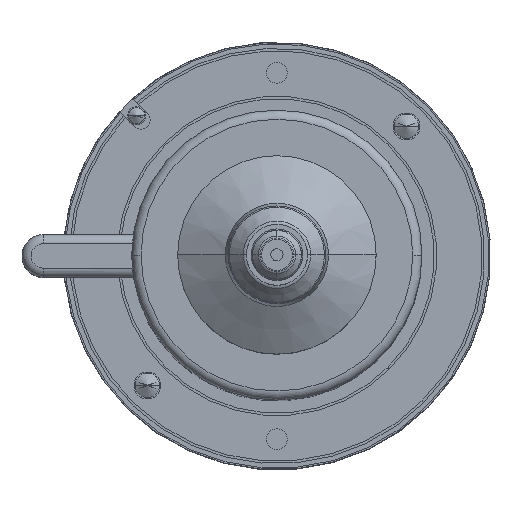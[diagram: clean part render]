
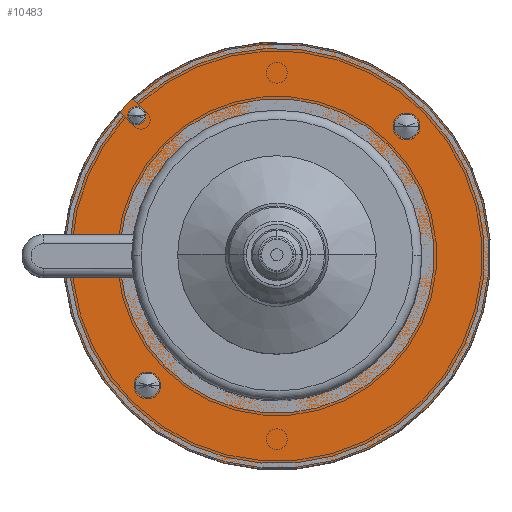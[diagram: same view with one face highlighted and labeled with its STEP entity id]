
A CAD part, top view. The second image highlights one B-rep face of the part: STEP entity #10483.
In plain terms, the highlighted planar face has unit normal (0, 0, 1).
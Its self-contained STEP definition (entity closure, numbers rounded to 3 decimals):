
#2480 = VERTEX_POINT ( 'NONE', #16774 ) ;
#2717 = VERTEX_POINT ( 'NONE', #17008 ) ;
#2743 = VERTEX_POINT ( 'NONE', #17212 ) ;
#3942 = CARTESIAN_POINT ( 'NONE',  ( -46.426, -42.426, 32. ) ) ;
#4138 = CARTESIAN_POINT ( 'NONE',  ( 46.426, 42.426, 32. ) ) ;
#6393 = FACE_OUTER_BOUND ( 'NONE', #13898, .T. ) ;
#6394 = FACE_BOUND ( 'NONE', #13660, .T. ) ;
#6396 = FACE_BOUND ( 'NONE', #16269, .T. ) ;
#6398 = FACE_BOUND ( 'NONE', #13784, .T. ) ;
#6981 = PLANE ( 'NONE',  #11930 ) ;
#6982 = CARTESIAN_POINT ( 'NONE',  ( 0., 32.5, 32. ) ) ;
#6983 = DIRECTION ( 'NONE',  ( 0., 0., -1. ) ) ;
#6984 = DIRECTION ( 'NONE',  ( -1., 0., 0. ) ) ;
#7381 = CARTESIAN_POINT ( 'NONE',  ( -45.962, 45.962, 32. ) ) ;
#7382 = DIRECTION ( 'NONE',  ( 0., 0., 1. ) ) ;
#7383 = DIRECTION ( 'NONE',  ( -1., 0., 0. ) ) ;
#7384 = CARTESIAN_POINT ( 'NONE',  ( -45.962, 45.962, 32. ) ) ;
#7385 = DIRECTION ( 'NONE',  ( 0., 0., 1. ) ) ;
#7386 = DIRECTION ( 'NONE',  ( -1., 0., 0. ) ) ;
#7427 = LINE ( 'NONE', #8851, #7428 ) ;
#7428 = VECTOR ( 'NONE', #8852, 1000. ) ;
#7432 = CIRCLE ( 'NONE', #12194, 70. ) ;
#7454 = CIRCLE ( 'NONE', #12212, 4. ) ;
#7461 = CIRCLE ( 'NONE', #12220, 47.5 ) ;
#7465 = CIRCLE ( 'NONE', #12228, 47.5 ) ;
#7542 = LINE ( 'NONE', #9061, #7544 ) ;
#7543 = CIRCLE ( 'NONE', #12266, 4. ) ;
#7544 = VECTOR ( 'NONE', #9062, 1000. ) ;
#7617 = CIRCLE ( 'NONE', #12332, 4. ) ;
#7633 = CIRCLE ( 'NONE', #12340, 4. ) ;
#8851 = CARTESIAN_POINT ( 'NONE',  ( 0., -7., 32. ) ) ;
#8852 = DIRECTION ( 'NONE',  ( -1., 0., 0. ) ) ;
#8858 = CARTESIAN_POINT ( 'NONE',  ( 0., 0., 32. ) ) ;
#8859 = DIRECTION ( 'NONE',  ( 0., 0., -1. ) ) ;
#8860 = DIRECTION ( 'NONE',  ( -1., 0., 0. ) ) ;
#8897 = CARTESIAN_POINT ( 'NONE',  ( 42.426, 42.426, 32. ) ) ;
#8898 = DIRECTION ( 'NONE',  ( 0., 0., 1. ) ) ;
#8899 = DIRECTION ( 'NONE',  ( 1., 0., 0. ) ) ;
#8913 = CARTESIAN_POINT ( 'NONE',  ( 0., 0., 32. ) ) ;
#8914 = DIRECTION ( 'NONE',  ( 0., 0., 1. ) ) ;
#8915 = DIRECTION ( 'NONE',  ( -1., 0., 0. ) ) ;
#8925 = CARTESIAN_POINT ( 'NONE',  ( 0., 0., 32. ) ) ;
#8926 = DIRECTION ( 'NONE',  ( 0., 0., 1. ) ) ;
#8927 = DIRECTION ( 'NONE',  ( -1., 0., 0. ) ) ;
#9058 = CARTESIAN_POINT ( 'NONE',  ( -42.426, -42.426, 32. ) ) ;
#9059 = DIRECTION ( 'NONE',  ( 0., 0., 1. ) ) ;
#9060 = DIRECTION ( 'NONE',  ( -1., 0., 0. ) ) ;
#9061 = CARTESIAN_POINT ( 'NONE',  ( 0., 7., 32. ) ) ;
#9062 = DIRECTION ( 'NONE',  ( 1., 0., 0. ) ) ;
#9199 = CARTESIAN_POINT ( 'NONE',  ( -42.426, -42.426, 32. ) ) ;
#9200 = DIRECTION ( 'NONE',  ( 0., 0., 1. ) ) ;
#9201 = DIRECTION ( 'NONE',  ( -1., 0., 0. ) ) ;
#9227 = CARTESIAN_POINT ( 'NONE',  ( 42.426, 42.426, 32. ) ) ;
#9228 = DIRECTION ( 'NONE',  ( 0., 0., 1. ) ) ;
#9229 = DIRECTION ( 'NONE',  ( 1., 0., 0. ) ) ;
#9917 = CIRCLE ( 'NONE', #12166, 3. ) ;
#9918 = CIRCLE ( 'NONE', #12168, 3. ) ;
#10483 = ADVANCED_FACE ( 'NONE', ( #6393, #6394, #6396, #6398 ), #6981, .F. ) ;
#11037 = EDGE_CURVE ( 'NONE', #22844, #22532, #9917, .T. ) ;
#11042 = EDGE_CURVE ( 'NONE', #22532, #22844, #9918, .T. ) ;
#11086 = EDGE_CURVE ( 'NONE', #2480, #22530, #7427, .T. ) ;
#11092 = EDGE_CURVE ( 'NONE', #2743, #22530, #7432, .T. ) ;
#11124 = EDGE_CURVE ( 'NONE', #22585, #22466, #7454, .T. ) ;
#11138 = EDGE_CURVE ( 'NONE', #22736, #22977, #7461, .T. ) ;
#11147 = EDGE_CURVE ( 'NONE', #2480, #22736, #7465, .T. ) ;
#11253 = EDGE_CURVE ( 'NONE', #22201, #2717, #7543, .T. ) ;
#11255 = EDGE_CURVE ( 'NONE', #2743, #22977, #7542, .T. ) ;
#11434 = EDGE_CURVE ( 'NONE', #2717, #22201, #7617, .T. ) ;
#11467 = EDGE_CURVE ( 'NONE', #22466, #22585, #7633, .T. ) ;
#11930 = AXIS2_PLACEMENT_3D ( 'NONE', #6982, #6983, #6984 ) ;
#12166 = AXIS2_PLACEMENT_3D ( 'NONE', #7381, #7382, #7383 ) ;
#12168 = AXIS2_PLACEMENT_3D ( 'NONE', #7384, #7385, #7386 ) ;
#12194 = AXIS2_PLACEMENT_3D ( 'NONE', #8858, #8859, #8860 ) ;
#12212 = AXIS2_PLACEMENT_3D ( 'NONE', #8897, #8898, #8899 ) ;
#12220 = AXIS2_PLACEMENT_3D ( 'NONE', #8913, #8914, #8915 ) ;
#12228 = AXIS2_PLACEMENT_3D ( 'NONE', #8925, #8926, #8927 ) ;
#12266 = AXIS2_PLACEMENT_3D ( 'NONE', #9058, #9059, #9060 ) ;
#12332 = AXIS2_PLACEMENT_3D ( 'NONE', #9199, #9200, #9201 ) ;
#12340 = AXIS2_PLACEMENT_3D ( 'NONE', #9227, #9228, #9229 ) ;
#13660 = EDGE_LOOP ( 'NONE', ( #23699, #23687 ) ) ;
#13784 = EDGE_LOOP ( 'NONE', ( #23682, #23680 ) ) ;
#13898 = EDGE_LOOP ( 'NONE', ( #23644, #23664, #23631, #23642, #23643 ) ) ;
#16269 = EDGE_LOOP ( 'NONE', ( #23601, #23593 ) ) ;
#16774 = CARTESIAN_POINT ( 'NONE',  ( -46.981, -7., 32. ) ) ;
#17008 = CARTESIAN_POINT ( 'NONE',  ( -38.426, -42.426, 32. ) ) ;
#17212 = CARTESIAN_POINT ( 'NONE',  ( -69.649, 7., 32. ) ) ;
#22201 = VERTEX_POINT ( 'NONE', #3942 ) ;
#22466 = VERTEX_POINT ( 'NONE', #4138 ) ;
#22530 = VERTEX_POINT ( 'NONE', #25377 ) ;
#22532 = VERTEX_POINT ( 'NONE', #25379 ) ;
#22585 = VERTEX_POINT ( 'NONE', #25419 ) ;
#22736 = VERTEX_POINT ( 'NONE', #25533 ) ;
#22844 = VERTEX_POINT ( 'NONE', #25616 ) ;
#22977 = VERTEX_POINT ( 'NONE', #25715 ) ;
#23593 = ORIENTED_EDGE ( 'NONE', *, *, #11124, .F. ) ;
#23601 = ORIENTED_EDGE ( 'NONE', *, *, #11467, .F. ) ;
#23631 = ORIENTED_EDGE ( 'NONE', *, *, #11092, .F. ) ;
#23642 = ORIENTED_EDGE ( 'NONE', *, *, #11255, .T. ) ;
#23643 = ORIENTED_EDGE ( 'NONE', *, *, #11138, .F. ) ;
#23644 = ORIENTED_EDGE ( 'NONE', *, *, #11147, .F. ) ;
#23664 = ORIENTED_EDGE ( 'NONE', *, *, #11086, .T. ) ;
#23680 = ORIENTED_EDGE ( 'NONE', *, *, #11434, .F. ) ;
#23682 = ORIENTED_EDGE ( 'NONE', *, *, #11253, .F. ) ;
#23687 = ORIENTED_EDGE ( 'NONE', *, *, #11042, .F. ) ;
#23699 = ORIENTED_EDGE ( 'NONE', *, *, #11037, .F. ) ;
#25377 = CARTESIAN_POINT ( 'NONE',  ( -69.649, -7., 32. ) ) ;
#25379 = CARTESIAN_POINT ( 'NONE',  ( -42.962, 45.962, 32. ) ) ;
#25419 = CARTESIAN_POINT ( 'NONE',  ( 38.426, 42.426, 32. ) ) ;
#25533 = CARTESIAN_POINT ( 'NONE',  ( 47.5, 0., 32. ) ) ;
#25616 = CARTESIAN_POINT ( 'NONE',  ( -48.962, 45.962, 32. ) ) ;
#25715 = CARTESIAN_POINT ( 'NONE',  ( -46.981, 7., 32. ) ) ;
